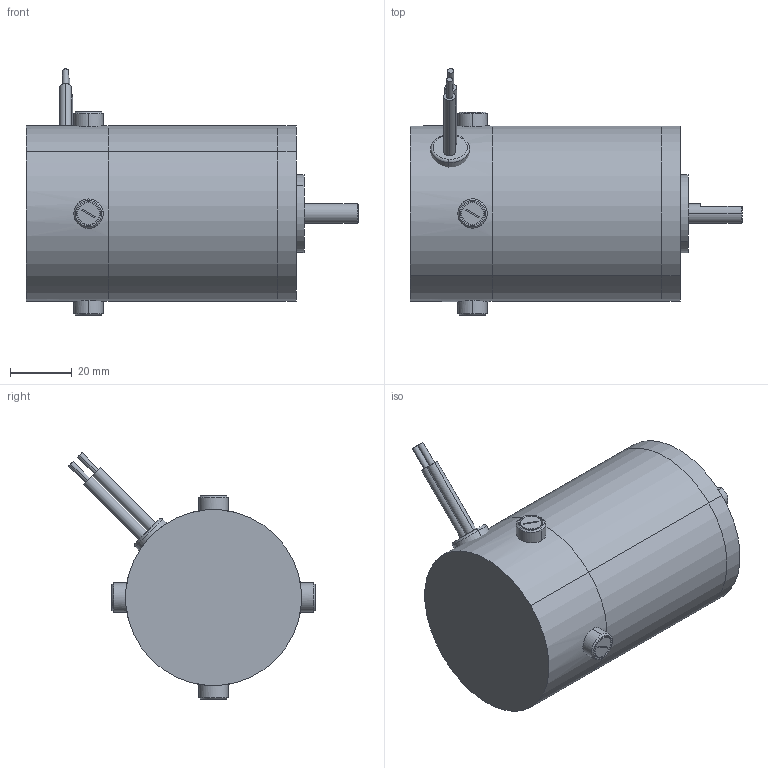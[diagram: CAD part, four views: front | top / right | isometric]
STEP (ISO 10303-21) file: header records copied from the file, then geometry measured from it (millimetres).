
FILE_DESCRIPTION (( 'STEP AP203' ), '1' );
FILE_NAME ('s22346.step', '2018-12-07T18:51:23', ( '' ), ( '' ), 'SwSTEP 2.0', 'SolidWorks 2017', '' );
FILE_SCHEMA (( 'CONFIG_CONTROL_DESIGN' ));
Length unit declared in the file: inch
Products named in the file (1): s22346
Bounding box: 107.9 x 80.07 x 80.07 mm (x, y, z)
Volume: 228970.3 mm3; surface area: 35097.5 mm2
Topology: 9 solids, 9 shells, 229 faces, 483 edges, 302 vertices
Faces by surface type: plane 114, cylinder 78, cone 19, torus 10, sphere 8
Entity records: 6565 total; most frequent: CARTESIAN_POINT 1349, DIRECTION 1190, ORIENTED_EDGE 966, AXIS2_PLACEMENT_3D 489, EDGE_CURVE 483, VERTEX_POINT 302, EDGE_LOOP 267, CIRCLE 259
